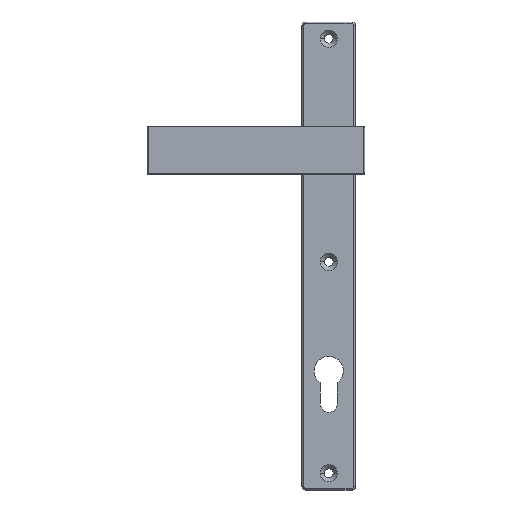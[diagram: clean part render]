
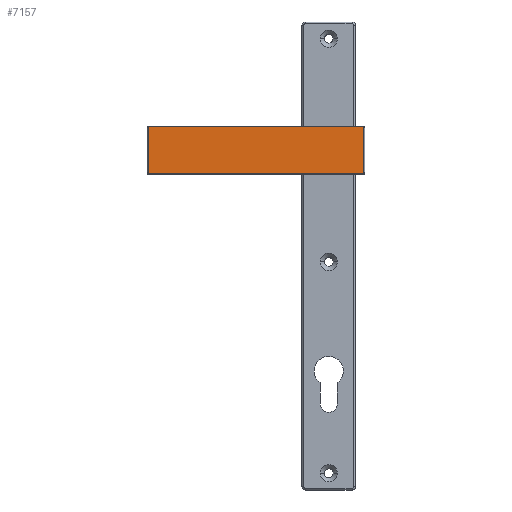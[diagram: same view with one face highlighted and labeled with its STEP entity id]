
A CAD part, top view. The second image highlights one B-rep face of the part: STEP entity #7157.
In plain terms, the highlighted planar face has unit normal (0, 0, 1) as drawn and (-1, 0, 0) by its records, which use the part's own axes.
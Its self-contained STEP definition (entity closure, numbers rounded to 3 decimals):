
#80 = CIRCLE ( 'NONE', #1942, 0.5 ) ;
#115 = CARTESIAN_POINT ( 'NONE',  ( -5., -107.5, -13.5 ) ) ;
#169 = VERTEX_POINT ( 'NONE', #1856 ) ;
#179 = DIRECTION ( 'NONE',  ( 0., -1., 0. ) ) ;
#353 = CARTESIAN_POINT ( 'NONE',  ( -5., 20.5, 14. ) ) ;
#579 = EDGE_CURVE ( 'NONE', #3040, #169, #7070, .T. ) ;
#952 = DIRECTION ( 'NONE',  ( -1., 0., 0. ) ) ;
#958 = ORIENTED_EDGE ( 'NONE', *, *, #3208, .T. ) ;
#1460 = EDGE_CURVE ( 'NONE', #5574, #3040, #80, .T. ) ;
#1856 = CARTESIAN_POINT ( 'NONE',  ( -5., -107.5, -14. ) ) ;
#1942 = AXIS2_PLACEMENT_3D ( 'NONE', #2300, #4365, #7509 ) ;
#1975 = DIRECTION ( 'NONE',  ( -1., 0., 0. ) ) ;
#2004 = VECTOR ( 'NONE', #5442, 1000. ) ;
#2156 = EDGE_CURVE ( 'NONE', #6473, #4742, #6961, .T. ) ;
#2255 = FACE_OUTER_BOUND ( 'NONE', #8214, .T. ) ;
#2300 = CARTESIAN_POINT ( 'NONE',  ( -5., 20.5, -13.5 ) ) ;
#2560 = DIRECTION ( 'NONE',  ( 0., 0., 1. ) ) ;
#2790 = VECTOR ( 'NONE', #9450, 1000. ) ;
#2835 = ORIENTED_EDGE ( 'NONE', *, *, #4641, .T. ) ;
#3040 = VERTEX_POINT ( 'NONE', #6867 ) ;
#3111 = VECTOR ( 'NONE', #2560, 1000. ) ;
#3156 = LINE ( 'NONE', #7302, #2790 ) ;
#3161 = VERTEX_POINT ( 'NONE', #7013 ) ;
#3208 = EDGE_CURVE ( 'NONE', #3161, #6473, #7329, .T. ) ;
#3482 = DIRECTION ( 'NONE',  ( -1., 0., 0. ) ) ;
#3556 = EDGE_CURVE ( 'NONE', #6627, #5574, #6302, .T. ) ;
#3584 = PLANE ( 'NONE',  #8546 ) ;
#3667 = EDGE_CURVE ( 'NONE', #4742, #10051, #3156, .T. ) ;
#4074 = ORIENTED_EDGE ( 'NONE', *, *, #2156, .T. ) ;
#4365 = DIRECTION ( 'NONE',  ( -1., 0., 0. ) ) ;
#4641 = EDGE_CURVE ( 'NONE', #169, #3161, #8655, .T. ) ;
#4677 = DIRECTION ( 'NONE',  ( 0., 0., -1. ) ) ;
#4704 = EDGE_CURVE ( 'NONE', #10051, #6627, #10163, .T. ) ;
#4742 = VERTEX_POINT ( 'NONE', #7285 ) ;
#4922 = DIRECTION ( 'NONE',  ( 0., -1., 0. ) ) ;
#5099 = DIRECTION ( 'NONE',  ( -1., 0., 0. ) ) ;
#5442 = DIRECTION ( 'NONE',  ( 0., -1., 0. ) ) ;
#5574 = VERTEX_POINT ( 'NONE', #6826 ) ;
#5991 = AXIS2_PLACEMENT_3D ( 'NONE', #9014, #952, #4922 ) ;
#6302 = LINE ( 'NONE', #7869, #7796 ) ;
#6473 = VERTEX_POINT ( 'NONE', #10298 ) ;
#6475 = ORIENTED_EDGE ( 'NONE', *, *, #3556, .T. ) ;
#6540 = CARTESIAN_POINT ( 'NONE',  ( -5., -108., 13.5 ) ) ;
#6627 = VERTEX_POINT ( 'NONE', #7421 ) ;
#6673 = ORIENTED_EDGE ( 'NONE', *, *, #1460, .T. ) ;
#6674 = CARTESIAN_POINT ( 'NONE',  ( -5., -107.5, 13.5 ) ) ;
#6826 = CARTESIAN_POINT ( 'NONE',  ( -5., 21., -13.5 ) ) ;
#6867 = CARTESIAN_POINT ( 'NONE',  ( -5., 20.5, -14. ) ) ;
#6961 = CIRCLE ( 'NONE', #9141, 0.5 ) ;
#7013 = CARTESIAN_POINT ( 'NONE',  ( -5., -108., -13.5 ) ) ;
#7070 = LINE ( 'NONE', #9434, #2004 ) ;
#7157 = ADVANCED_FACE ( 'NONE', ( #2255 ), #3584, .T. ) ;
#7285 = CARTESIAN_POINT ( 'NONE',  ( -5., -107.5, 14. ) ) ;
#7302 = CARTESIAN_POINT ( 'NONE',  ( -5., 20.5, 14. ) ) ;
#7329 = LINE ( 'NONE', #6540, #3111 ) ;
#7421 = CARTESIAN_POINT ( 'NONE',  ( -5., 21., 13.5 ) ) ;
#7509 = DIRECTION ( 'NONE',  ( 0., -1., 0. ) ) ;
#7565 = CARTESIAN_POINT ( 'NONE',  ( -5., 0., 0. ) ) ;
#7616 = DIRECTION ( 'NONE',  ( 0., -1., 0. ) ) ;
#7796 = VECTOR ( 'NONE', #4677, 1000. ) ;
#7869 = CARTESIAN_POINT ( 'NONE',  ( -5., 21., -13.5 ) ) ;
#7886 = ORIENTED_EDGE ( 'NONE', *, *, #4704, .T. ) ;
#8135 = DIRECTION ( 'NONE',  ( 0., -1., 0. ) ) ;
#8214 = EDGE_LOOP ( 'NONE', ( #958, #4074, #9556, #7886, #6475, #6673, #9289, #2835 ) ) ;
#8546 = AXIS2_PLACEMENT_3D ( 'NONE', #7565, #5099, #7616 ) ;
#8655 = CIRCLE ( 'NONE', #9168, 0.5 ) ;
#9014 = CARTESIAN_POINT ( 'NONE',  ( -5., 20.5, 13.5 ) ) ;
#9141 = AXIS2_PLACEMENT_3D ( 'NONE', #6674, #1975, #179 ) ;
#9168 = AXIS2_PLACEMENT_3D ( 'NONE', #115, #3482, #8135 ) ;
#9289 = ORIENTED_EDGE ( 'NONE', *, *, #579, .T. ) ;
#9434 = CARTESIAN_POINT ( 'NONE',  ( -5., -107.5, -14. ) ) ;
#9450 = DIRECTION ( 'NONE',  ( 0., 1., 0. ) ) ;
#9556 = ORIENTED_EDGE ( 'NONE', *, *, #3667, .T. ) ;
#10051 = VERTEX_POINT ( 'NONE', #353 ) ;
#10163 = CIRCLE ( 'NONE', #5991, 0.5 ) ;
#10298 = CARTESIAN_POINT ( 'NONE',  ( -5., -108., 13.5 ) ) ;
